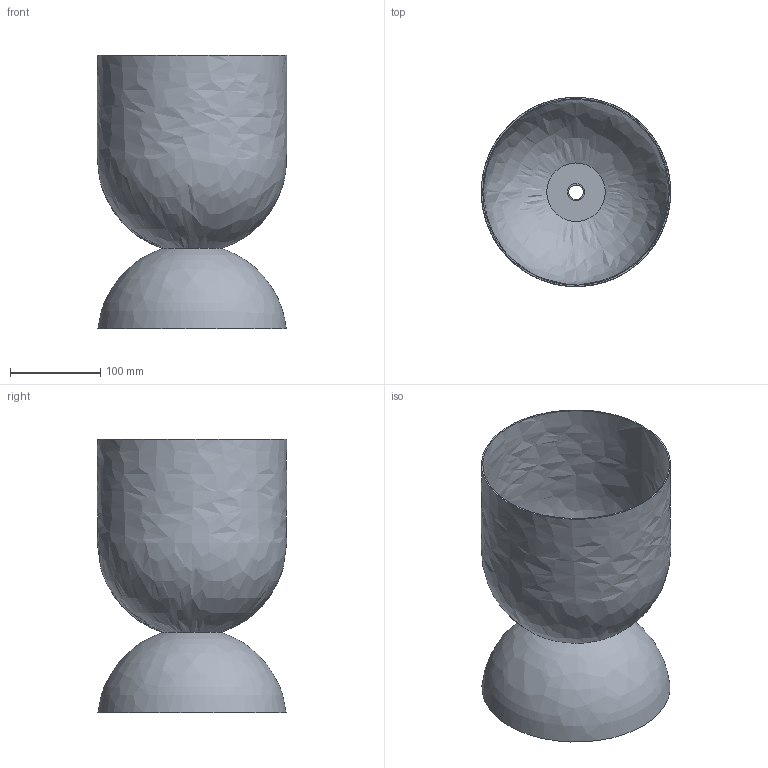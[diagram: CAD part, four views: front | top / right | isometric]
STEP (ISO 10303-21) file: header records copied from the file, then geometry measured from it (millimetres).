
FILE_DESCRIPTION(/* description */ (''),/* implementation_level */ '2;1');
FILE_NAME(/* name */ 'HLJ0ZW~K',/* time_stamp */ '2020-03-27T16:33:35+01:00',/* author */ (''),/* organization */ (''),/* preprocessor_version */ 'ST-DEVELOPER v16.5',/* originating_system */ '',/* authorisation */ '');
FILE_SCHEMA (('AUTOMOTIVE_DESIGN'));
Length unit declared in the file: millimetre
Products named in the file (1): Document
Bounding box: 210 x 210 x 303.14 mm (x, y, z)
Volume: 307258.9 mm3; surface area: 401909.7 mm2
Topology: 1 solids, 1 shells, 13 faces, 26 edges, 13 vertices
Faces by surface type: bspline 13
Entity records: 645 total; most frequent: CARTESIAN_POINT 472, ORIENTED_EDGE 52, EDGE_CURVE 26, ADVANCED_FACE 13, FACE_OUTER_BOUND 13, EDGE_LOOP 13, VERTEX_POINT 13, B_SPLINE_CURVE_WITH_KNOTS 9
